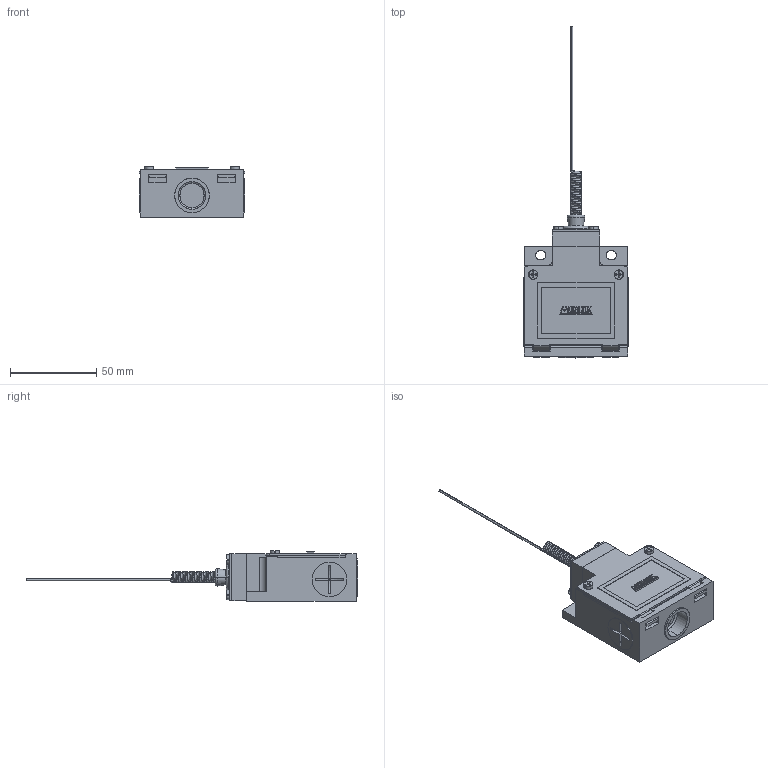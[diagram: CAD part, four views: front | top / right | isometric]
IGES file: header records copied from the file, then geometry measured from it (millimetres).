
Start section: SolidWorks IGES file using analytic representation for surfaces
Global section: file name: D:\X - Arquivos\PROEX\Empresas\P11 - METALTEX\01 - Produtos\IGES\Terceira remessa\TZE06.IGS; native system: SolidWorks 2012; preprocessor: SolidWorks 2012; author: Usuario; date: 180207.113914; units: millimetre
Bounding box: 61 x 192.2 x 30 mm (x, y, z)
Surface area: 20285.2 mm2 (no closed solid volume)
Topology: 0 solids, 0 shells, 399 faces, 3420 edges, 3420 vertices
Faces by surface type: bspline 328, revolution 71
